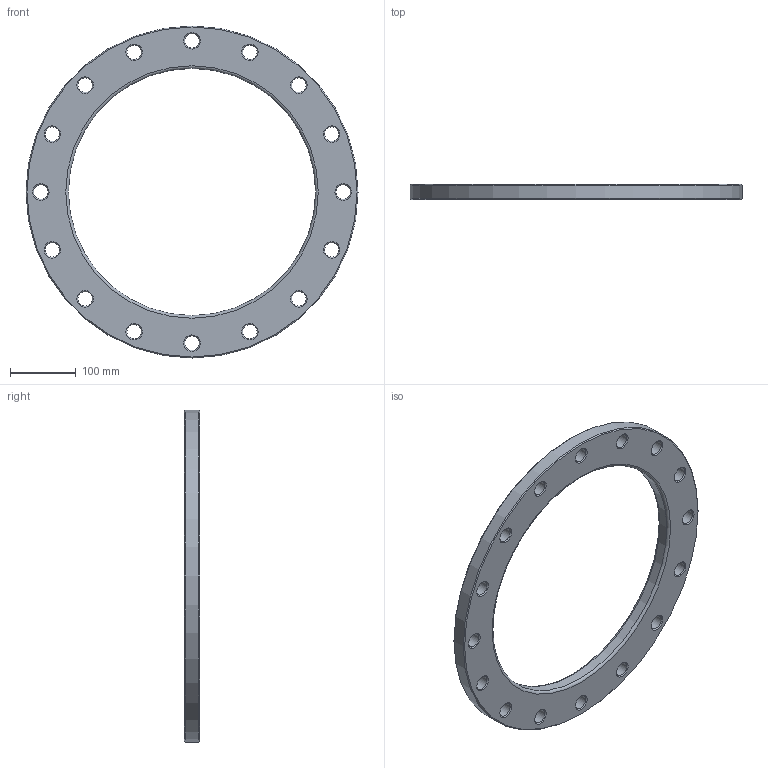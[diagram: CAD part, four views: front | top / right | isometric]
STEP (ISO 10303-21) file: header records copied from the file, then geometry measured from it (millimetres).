
FILE_DESCRIPTION(/* description */ ('Unknown'),/* implementation_level */ '2;1');
FILE_NAME(/* name */ 'FZ355B',/* time_stamp */ '2021-03-15T10:52:07+01:00',/* author */ ('Unknown'),/* organization */ ('Unknown'),/* preprocessor_version */ 'ST-DEVELOPER v16.7',/* originating_system */ 'Solid Edge',/* authorisation */ 'Unknown');
FILE_SCHEMA (('AUTOMOTIVE_DESIGN {1 0 10303 214 3 1 1}'));
Length unit declared in the file: millimetre
Products named in the file (1): FZ355B
Bounding box: 505 x 23 x 505 mm (x, y, z)
Volume: 1898770.4 mm3; surface area: 246762.3 mm2
Topology: 1 solids, 1 shells, 56 faces, 174 edges, 120 vertices
Faces by surface type: cone 34, cylinder 18, plane 2, torus 2
Full cylindrical faces by diameter (mm): 22 x16, 376 x1, 505 x1
Entity records: 1382 total; most frequent: DIRECTION 258, CARTESIAN_POINT 201, ORIENTED_EDGE 144, EDGE_LOOP 144, FACE_BOUND 144, AXIS2_PLACEMENT_3D 129, EDGE_CURVE 72, VERTEX_POINT 72
